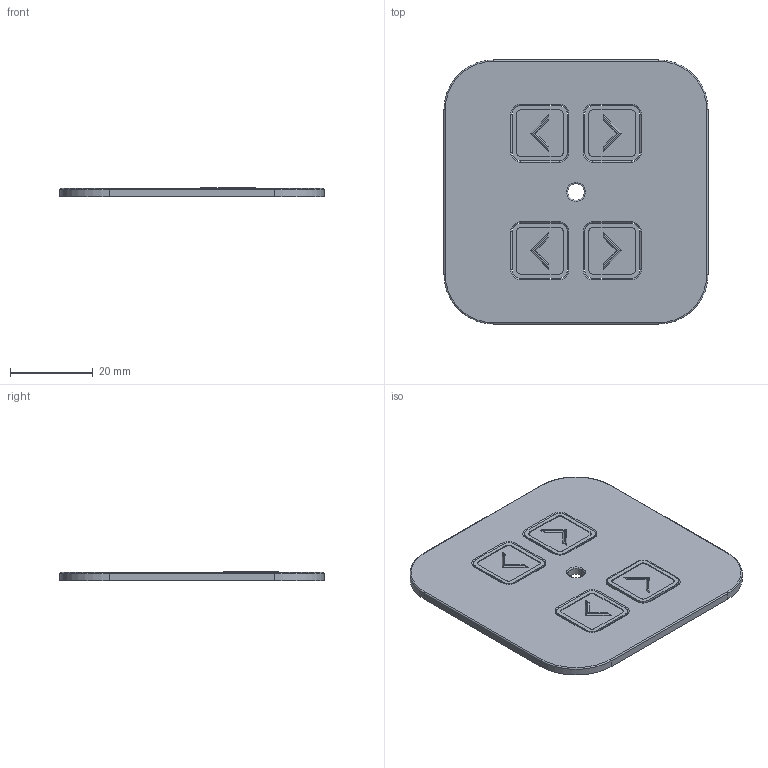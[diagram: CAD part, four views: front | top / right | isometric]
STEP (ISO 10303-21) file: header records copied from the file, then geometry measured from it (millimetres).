
FILE_DESCRIPTION (( 'STEP AP214' ), '1' );
FILE_NAME ('TFH7S.STEP', '2015-06-12T06:58:47', ( '' ), ( '' ), 'SwSTEP 2.0', 'SolidWorks 2010', '' );
FILE_SCHEMA (( 'AUTOMOTIVE_DESIGN' ));
Length unit declared in the file: millimetre
Products named in the file (1): TFH7S
Bounding box: 64 x 64 x 2.3 mm (x, y, z)
Surface area: 8292.8 mm2 (no closed solid volume)
Topology: 0 solids, 9 shells, 165 faces, 509 edges, 342 vertices
Faces by surface type: cylinder 97, plane 46, torus 22
Entity records: 7483 total; most frequent: CARTESIAN_POINT 1089, DIRECTION 1013, ORIENTED_EDGE 840, EDGE_CURVE 509, AXIS2_PLACEMENT_3D 362, VERTEX_POINT 342, LINE 289, VECTOR 289
